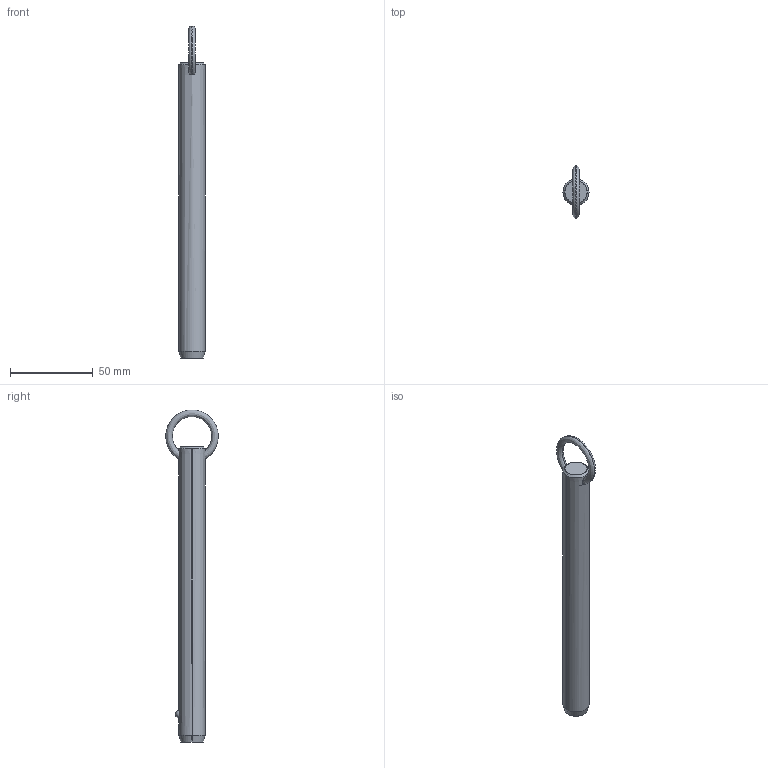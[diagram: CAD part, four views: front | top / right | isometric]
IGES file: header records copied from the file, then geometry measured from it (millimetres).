
Start section: SolidWorks IGES file using analytic representation for surfaces
Global section: file name: C:\Users\liam_\OneDrive\Documents\WORK\Work for WixRoyd\Job Files\J-00019 - Matt Davis CAD Checking\04. CAD Drawings\automotion20190605\P1250.2_v2\P1250.2_v2_20190729_IGES\P1250.062-590.igs; native system: SolidWorks 2017; preprocessor: SolidWorks 2017; author: liam_; date: 190729.234121; units: millimetre
Bounding box: 15.8 x 31.7 x 200.59 mm (x, y, z)
Surface area: 10029.1 mm2 (no closed solid volume)
Topology: 0 solids, 0 shells, 12 faces, 292 edges, 290 vertices
Faces by surface type: revolution 8, bspline 4
